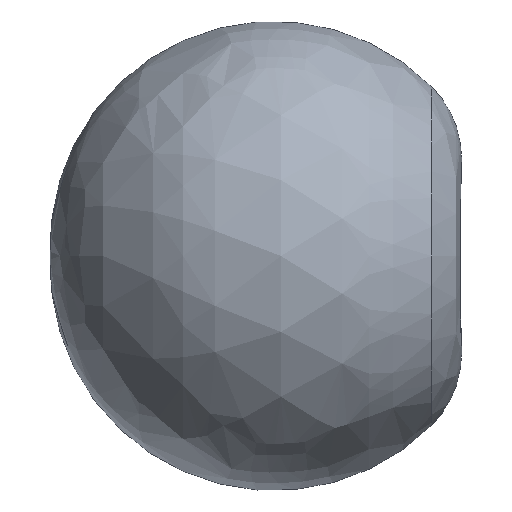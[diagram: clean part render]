
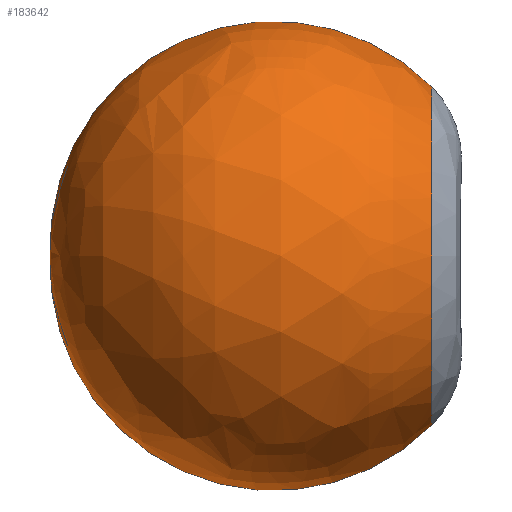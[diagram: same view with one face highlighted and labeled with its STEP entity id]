
A CAD part, left-side view. The second image highlights one B-rep face of the part: STEP entity #183642.
In plain terms, the highlighted free-form (B-spline) face has degree [3, 3] with [4, 4] control points.
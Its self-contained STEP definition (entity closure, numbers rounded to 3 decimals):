
#4108 = AXIS2_PLACEMENT_3D ( 'NONE', #49488, #31463, #69229 ) ;
#6530 = CIRCLE ( 'NONE', #67161, 994.01 ) ;
#10121 = CARTESIAN_POINT ( 'NONE',  ( 0., 1527.051, 1078.122 ) ) ;
#10968 = CARTESIAN_POINT ( 'NONE',  ( -2156.244, 1527.051, -1078.122 ) ) ;
#24350 = DIRECTION ( 'NONE',  ( 0., 0., 1. ) ) ;
#30176 = ORIENTED_EDGE ( 'NONE', *, *, #253083, .T. ) ;
#31463 = DIRECTION ( 'NONE',  ( 0., 1., 0. ) ) ;
#43159 = DIRECTION ( 'NONE',  ( -1., 0., 0. ) ) ;
#49472 = CARTESIAN_POINT ( 'NONE',  ( 0., 1472.752, 0. ) ) ;
#49488 = CARTESIAN_POINT ( 'NONE',  ( 0., -222.871, 0. ) ) ;
#56982 = CARTESIAN_POINT ( 'NONE',  ( 0., -222.871, -752.871 ) ) ;
#67161 = AXIS2_PLACEMENT_3D ( 'NONE', #245847, #208914, #206407 ) ;
#69210 = CARTESIAN_POINT ( 'NONE',  ( 0., 1472.752, 0. ) ) ;
#69229 = DIRECTION ( 'NONE',  ( 0., 0., -1. ) ) ;
#72867 = FACE_OUTER_BOUND ( 'NONE', #218019, .T. ) ;
#80120 = CIRCLE ( 'NONE', #4108, 752.871 ) ;
#91498 = CARTESIAN_POINT ( 'NONE',  ( -1505.742, -222.871, -752.871 ) ) ;
#92337 = CARTESIAN_POINT ( 'NONE',  ( 0., -222.871, 752.871 ) ) ;
#117466 = EDGE_CURVE ( 'NONE', #183911, #120476, #6530, .T. ) ;
#120476 = VERTEX_POINT ( 'NONE', #141998 ) ;
#128636 = CARTESIAN_POINT ( 'NONE',  ( -2156.244, 1527.051, 1078.122 ) ) ;
#130734 = EDGE_CURVE ( 'NONE', #183911, #135451, #80120, .T. ) ;
#135451 = VERTEX_POINT ( 'NONE', #211026 ) ;
#141998 = CARTESIAN_POINT ( 'NONE',  ( 0., 1472.752, 0. ) ) ;
#142138 = CARTESIAN_POINT ( 'NONE',  ( 0., 480., 50. ) ) ;
#148427 = CARTESIAN_POINT ( 'NONE',  ( 0., 1472.752, 0. ) ) ;
#155618 = ORIENTED_EDGE ( 'NONE', *, *, #117466, .F. ) ;
#169896 = CARTESIAN_POINT ( 'NONE',  ( -1505.742, -222.871, 752.871 ) ) ;
#183642 = ADVANCED_FACE ( 'NONE', ( #72867 ), #246068, .T. ) ;
#183911 = VERTEX_POINT ( 'NONE', #56982 ) ;
#187170 = CARTESIAN_POINT ( 'NONE',  ( 0., 1472.752, 0. ) ) ;
#188579 = CIRCLE ( 'NONE', #241004, 994.01 ) ;
#188853 = CARTESIAN_POINT ( 'NONE',  ( 0., 1527.051, -1078.122 ) ) ;
#189675 = CARTESIAN_POINT ( 'NONE',  ( 0., 540.443, 1516.185 ) ) ;
#206407 = DIRECTION ( 'NONE',  ( 0., 0., -1. ) ) ;
#206913 = CARTESIAN_POINT ( 'NONE',  ( -3032.37, 540.443, 1516.185 ) ) ;
#208914 = DIRECTION ( 'NONE',  ( 1., 0., 0. ) ) ;
#211026 = CARTESIAN_POINT ( 'NONE',  ( 0., -222.871, 752.871 ) ) ;
#218019 = EDGE_LOOP ( 'NONE', ( #231679, #30176, #155618 ) ) ;
#229078 = CARTESIAN_POINT ( 'NONE',  ( 0., 540.443, -1516.185 ) ) ;
#231679 = ORIENTED_EDGE ( 'NONE', *, *, #130734, .T. ) ;
#241004 = AXIS2_PLACEMENT_3D ( 'NONE', #142138, #43159, #24350 ) ;
#245515 = CARTESIAN_POINT ( 'NONE',  ( -3032.37, 540.443, -1516.185 ) ) ;
#245847 = CARTESIAN_POINT ( 'NONE',  ( 0., 480., -50. ) ) ;
#246068 =( BOUNDED_SURFACE ( )  B_SPLINE_SURFACE ( 3, 3, ( 
 ( #92337, #169896, #91498, #246377 ),
 ( #189675, #206913, #245515, #229078 ),
 ( #10121, #128636, #10968, #188853 ),
 ( #49472, #187170, #148427, #69210 ) ),
 .UNSPECIFIED., .F., .F., .F. ) 
 B_SPLINE_SURFACE_WITH_KNOTS ( ( 4, 4 ),
 ( 4, 4 ),
 ( 0., 1. ),
 ( 0., 1. ),
 .UNSPECIFIED. ) 
 GEOMETRIC_REPRESENTATION_ITEM ( )  RATIONAL_B_SPLINE_SURFACE ( (
 ( 1., 0.333, 0.333, 1.),
 ( 0.573, 0.191, 0.191, 0.573),
 ( 0.573, 0.191, 0.191, 0.573),
 ( 1., 0.333, 0.333, 1.) ) ) 
 REPRESENTATION_ITEM ( '' )  SURFACE ( )  );
#246377 = CARTESIAN_POINT ( 'NONE',  ( 0., -222.871, -752.871 ) ) ;
#253083 = EDGE_CURVE ( 'NONE', #135451, #120476, #188579, .T. ) ;
